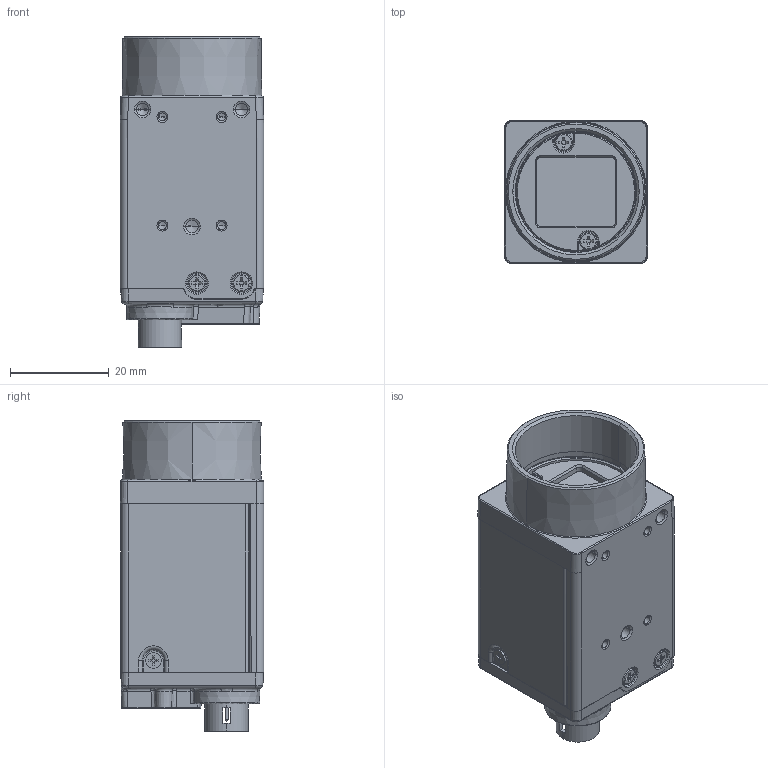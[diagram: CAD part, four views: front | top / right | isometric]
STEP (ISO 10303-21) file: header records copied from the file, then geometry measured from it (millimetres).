
FILE_DESCRIPTION((''),'2;1');
FILE_NAME('DH9-RDI000304-62322222','2024-05-16T10:52:01',('21511'),(''),'CREO PARAMETRIC BY PTC INC, 2020184','CREO PARAMETRIC BY PTC INC, 2020184','');
FILE_SCHEMA(('CONFIG_CONTROL_DESIGN','SHAPE_APPEARANCE_LAYERS_GROUPS'));
Products named in the file (1): DH9-RDI000304-62322222
Bounding box: 29 x 29 x 62.8 mm (x, y, z)
Volume: 36737.8 mm3; surface area: 14657.5 mm2
Topology: 1 solids, 12 shells, 1758 faces, 4838 edges, 3077 vertices
Faces by surface type: plane 1040, cylinder 414, cone 145, bspline 68, torus 55, extrusion 19, sphere 17
Entity records: 74214 total; most frequent: CARTESIAN_POINT 14774, ORIENTED_EDGE 9568, DIRECTION 8721, PRESENTATION_STYLE_ASSIGNMENT 4886, STYLED_ITEM 4785, CURVE_STYLE 4784, EDGE_CURVE 4784, VECTOR 3369
